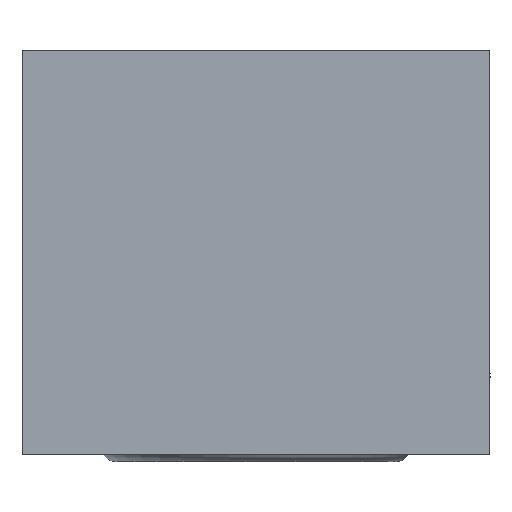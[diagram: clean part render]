
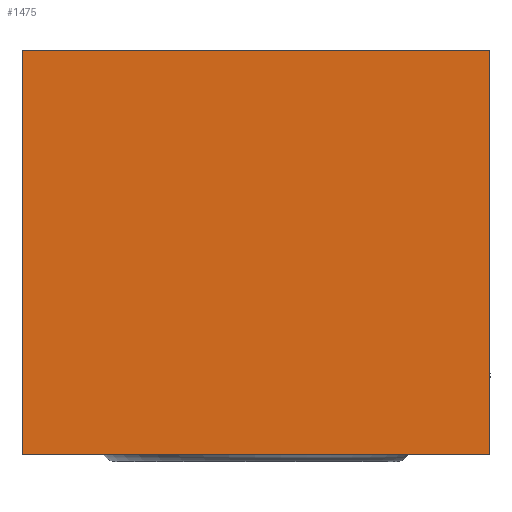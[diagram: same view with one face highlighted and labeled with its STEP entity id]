
A CAD part, left-side view. The second image highlights one B-rep face of the part: STEP entity #1475.
In plain terms, the highlighted planar face has unit normal (-1, 0, 0).
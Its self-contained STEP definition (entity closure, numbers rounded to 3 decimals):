
#61=LINE('',#2087,#114);
#73=LINE('',#2159,#126);
#76=LINE('',#2177,#129);
#77=LINE('',#2179,#130);
#114=VECTOR('',#1697,1000.);
#126=VECTOR('',#1725,1000.);
#129=VECTOR('',#1742,1000.);
#130=VECTOR('',#1743,1000.);
#320=ORIENTED_EDGE('',*,*,#547,.T.);
#321=ORIENTED_EDGE('',*,*,#556,.T.);
#322=ORIENTED_EDGE('',*,*,#557,.F.);
#323=ORIENTED_EDGE('',*,*,#524,.F.);
#524=EDGE_CURVE('',#649,#650,#61,.T.);
#547=EDGE_CURVE('',#649,#672,#73,.T.);
#556=EDGE_CURVE('',#672,#680,#76,.T.);
#557=EDGE_CURVE('',#650,#680,#77,.T.);
#649=VERTEX_POINT('',#2086);
#650=VERTEX_POINT('',#2088);
#672=VERTEX_POINT('',#2160);
#680=VERTEX_POINT('',#2178);
#789=EDGE_LOOP('',(#320,#321,#322,#323));
#891=FACE_BOUND('',#789,.T.);
#976=PLANE('',#1574);
#1475=ADVANCED_FACE('',(#891),#976,.T.);
#1574=AXIS2_PLACEMENT_3D('',#2176,#1740,#1741);
#1697=DIRECTION('',(0.,0.,1.));
#1725=DIRECTION('',(0.,-1.,0.));
#1740=DIRECTION('',(-1.,0.,0.));
#1741=DIRECTION('',(0.,-1.,0.));
#1742=DIRECTION('',(0.,0.,1.));
#1743=DIRECTION('',(0.,-1.,0.));
#2086=CARTESIAN_POINT('',(-32.,-26.,0.125));
#2087=CARTESIAN_POINT('',(-32.,-26.,0.125));
#2088=CARTESIAN_POINT('',(-32.,-26.,30.375));
#2159=CARTESIAN_POINT('',(-32.,-26.,0.125));
#2160=CARTESIAN_POINT('',(-32.,-61.,0.125));
#2176=CARTESIAN_POINT('',(-32.,-26.,0.125));
#2177=CARTESIAN_POINT('',(-32.,-61.,0.125));
#2178=CARTESIAN_POINT('',(-32.,-61.,30.375));
#2179=CARTESIAN_POINT('',(-32.,-26.,30.375));
